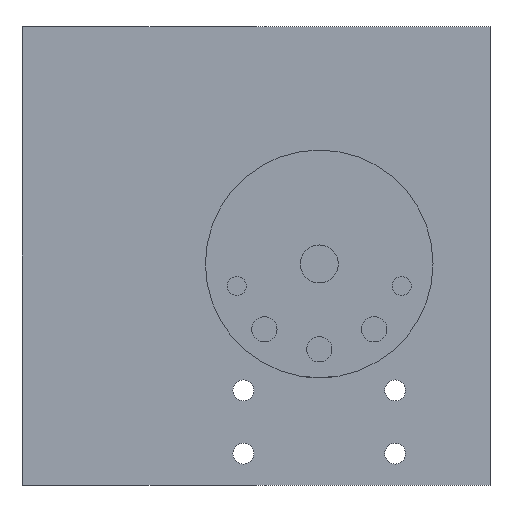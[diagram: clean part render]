
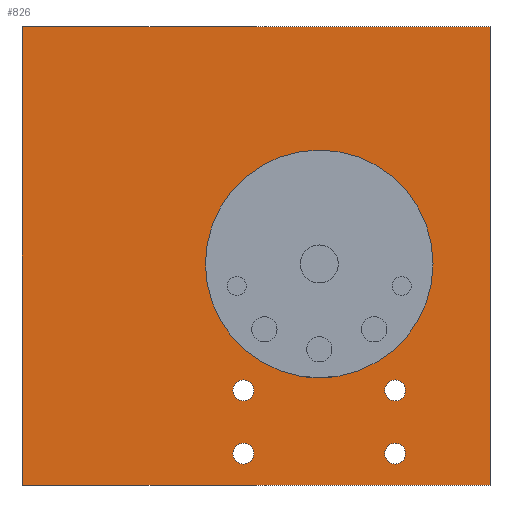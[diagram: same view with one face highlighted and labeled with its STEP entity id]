
A CAD part, front view. The second image highlights one B-rep face of the part: STEP entity #826.
In plain terms, the highlighted planar face has unit normal (0, -1, 0).
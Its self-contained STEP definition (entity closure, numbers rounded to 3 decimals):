
#44 = PLANE('',#45);
#45 = AXIS2_PLACEMENT_3D('',#46,#47,#48);
#46 = CARTESIAN_POINT('',(-47.,19.8,37.5));
#47 = DIRECTION('',(1.,0.,0.));
#48 = DIRECTION('',(0.,0.,-1.));
#100 = PLANE('',#101);
#101 = AXIS2_PLACEMENT_3D('',#102,#103,#104);
#102 = CARTESIAN_POINT('',(27.,19.8,-35.));
#103 = DIRECTION('',(-1.,0.,0.));
#104 = DIRECTION('',(0.,0.,1.));
#165 = VERTEX_POINT('',#166);
#166 = CARTESIAN_POINT('',(-47.,-19.8,37.5));
#180 = PLANE('',#181);
#181 = AXIS2_PLACEMENT_3D('',#182,#183,#184);
#182 = CARTESIAN_POINT('',(27.,19.8,37.5));
#183 = DIRECTION('',(-0.,-0.,-1.));
#184 = DIRECTION('',(-1.,0.,0.));
#192 = EDGE_CURVE('',#193,#165,#195,.T.);
#193 = VERTEX_POINT('',#194);
#194 = CARTESIAN_POINT('',(-47.,-19.8,-35.));
#195 = SURFACE_CURVE('',#196,(#200,#207),.PCURVE_S1.);
#196 = LINE('',#197,#198);
#197 = CARTESIAN_POINT('',(-47.,-19.8,-35.));
#198 = VECTOR('',#199,1.);
#199 = DIRECTION('',(0.,0.,1.));
#200 = PCURVE('',#44,#201);
#201 = DEFINITIONAL_REPRESENTATION('',(#202),#206);
#202 = LINE('',#203,#204);
#203 = CARTESIAN_POINT('',(72.5,-39.6));
#204 = VECTOR('',#205,1.);
#205 = DIRECTION('',(-1.,0.));
#206 = ( GEOMETRIC_REPRESENTATION_CONTEXT(2) 
PARAMETRIC_REPRESENTATION_CONTEXT() REPRESENTATION_CONTEXT('2D SPACE',''
  ) );
#207 = PCURVE('',#208,#213);
#208 = PLANE('',#209);
#209 = AXIS2_PLACEMENT_3D('',#210,#211,#212);
#210 = CARTESIAN_POINT('',(-10.,-19.8,1.25));
#211 = DIRECTION('',(-0.,-1.,-0.));
#212 = DIRECTION('',(0.,0.,-1.));
#213 = DEFINITIONAL_REPRESENTATION('',(#214),#218);
#214 = LINE('',#215,#216);
#215 = CARTESIAN_POINT('',(36.25,-37.));
#216 = VECTOR('',#217,1.);
#217 = DIRECTION('',(-1.,0.));
#218 = ( GEOMETRIC_REPRESENTATION_CONTEXT(2) 
PARAMETRIC_REPRESENTATION_CONTEXT() REPRESENTATION_CONTEXT('2D SPACE',''
  ) );
#236 = PLANE('',#237);
#237 = AXIS2_PLACEMENT_3D('',#238,#239,#240);
#238 = CARTESIAN_POINT('',(-47.,-16.3,-35.));
#239 = DIRECTION('',(-0.,0.,1.));
#240 = DIRECTION('',(1.,0.,0.));
#423 = VERTEX_POINT('',#424);
#424 = CARTESIAN_POINT('',(27.,-19.8,-35.));
#445 = EDGE_CURVE('',#446,#423,#448,.T.);
#446 = VERTEX_POINT('',#447);
#447 = CARTESIAN_POINT('',(27.,-19.8,37.5));
#448 = SURFACE_CURVE('',#449,(#453,#460),.PCURVE_S1.);
#449 = LINE('',#450,#451);
#450 = CARTESIAN_POINT('',(27.,-19.8,37.5));
#451 = VECTOR('',#452,1.);
#452 = DIRECTION('',(0.,0.,-1.));
#453 = PCURVE('',#100,#454);
#454 = DEFINITIONAL_REPRESENTATION('',(#455),#459);
#455 = LINE('',#456,#457);
#456 = CARTESIAN_POINT('',(72.5,-39.6));
#457 = VECTOR('',#458,1.);
#458 = DIRECTION('',(-1.,0.));
#459 = ( GEOMETRIC_REPRESENTATION_CONTEXT(2) 
PARAMETRIC_REPRESENTATION_CONTEXT() REPRESENTATION_CONTEXT('2D SPACE',''
  ) );
#460 = PCURVE('',#208,#461);
#461 = DEFINITIONAL_REPRESENTATION('',(#462),#466);
#462 = LINE('',#463,#464);
#463 = CARTESIAN_POINT('',(-36.25,37.));
#464 = VECTOR('',#465,1.);
#465 = DIRECTION('',(1.,0.));
#466 = ( GEOMETRIC_REPRESENTATION_CONTEXT(2) 
PARAMETRIC_REPRESENTATION_CONTEXT() REPRESENTATION_CONTEXT('2D SPACE',''
  ) );
#804 = EDGE_CURVE('',#446,#165,#805,.T.);
#805 = SURFACE_CURVE('',#806,(#810,#817),.PCURVE_S1.);
#806 = LINE('',#807,#808);
#807 = CARTESIAN_POINT('',(27.,-19.8,37.5));
#808 = VECTOR('',#809,1.);
#809 = DIRECTION('',(-1.,0.,0.));
#810 = PCURVE('',#180,#811);
#811 = DEFINITIONAL_REPRESENTATION('',(#812),#816);
#812 = LINE('',#813,#814);
#813 = CARTESIAN_POINT('',(0.,-39.6));
#814 = VECTOR('',#815,1.);
#815 = DIRECTION('',(1.,0.));
#816 = ( GEOMETRIC_REPRESENTATION_CONTEXT(2) 
PARAMETRIC_REPRESENTATION_CONTEXT() REPRESENTATION_CONTEXT('2D SPACE',''
  ) );
#817 = PCURVE('',#208,#818);
#818 = DEFINITIONAL_REPRESENTATION('',(#819),#823);
#819 = LINE('',#820,#821);
#820 = CARTESIAN_POINT('',(-36.25,37.));
#821 = VECTOR('',#822,1.);
#822 = DIRECTION('',(0.,-1.));
#823 = ( GEOMETRIC_REPRESENTATION_CONTEXT(2) 
PARAMETRIC_REPRESENTATION_CONTEXT() REPRESENTATION_CONTEXT('2D SPACE',''
  ) );
#826 = ADVANCED_FACE('',(#827,#853,#884,#915,#946,#977),#208,.T.);
#827 = FACE_BOUND('',#828,.T.);
#828 = EDGE_LOOP('',(#829,#830,#851,#852));
#829 = ORIENTED_EDGE('',*,*,#192,.F.);
#830 = ORIENTED_EDGE('',*,*,#831,.T.);
#831 = EDGE_CURVE('',#193,#423,#832,.T.);
#832 = SURFACE_CURVE('',#833,(#837,#844),.PCURVE_S1.);
#833 = LINE('',#834,#835);
#834 = CARTESIAN_POINT('',(-47.,-19.8,-35.));
#835 = VECTOR('',#836,1.);
#836 = DIRECTION('',(1.,0.,0.));
#837 = PCURVE('',#208,#838);
#838 = DEFINITIONAL_REPRESENTATION('',(#839),#843);
#839 = LINE('',#840,#841);
#840 = CARTESIAN_POINT('',(36.25,-37.));
#841 = VECTOR('',#842,1.);
#842 = DIRECTION('',(0.,1.));
#843 = ( GEOMETRIC_REPRESENTATION_CONTEXT(2) 
PARAMETRIC_REPRESENTATION_CONTEXT() REPRESENTATION_CONTEXT('2D SPACE',''
  ) );
#844 = PCURVE('',#236,#845);
#845 = DEFINITIONAL_REPRESENTATION('',(#846),#850);
#846 = LINE('',#847,#848);
#847 = CARTESIAN_POINT('',(0.,-3.5));
#848 = VECTOR('',#849,1.);
#849 = DIRECTION('',(1.,0.));
#850 = ( GEOMETRIC_REPRESENTATION_CONTEXT(2) 
PARAMETRIC_REPRESENTATION_CONTEXT() REPRESENTATION_CONTEXT('2D SPACE',''
  ) );
#851 = ORIENTED_EDGE('',*,*,#445,.F.);
#852 = ORIENTED_EDGE('',*,*,#804,.T.);
#853 = FACE_BOUND('',#854,.T.);
#854 = EDGE_LOOP('',(#855));
#855 = ORIENTED_EDGE('',*,*,#856,.F.);
#856 = EDGE_CURVE('',#857,#857,#859,.T.);
#857 = VERTEX_POINT('',#858);
#858 = CARTESIAN_POINT('',(-10.35,-19.8,-20.));
#859 = SURFACE_CURVE('',#860,(#865,#872),.PCURVE_S1.);
#860 = CIRCLE('',#861,1.65);
#861 = AXIS2_PLACEMENT_3D('',#862,#863,#864);
#862 = CARTESIAN_POINT('',(-12.,-19.8,-20.));
#863 = DIRECTION('',(0.,-1.,-0.));
#864 = DIRECTION('',(1.,0.,0.));
#865 = PCURVE('',#208,#866);
#866 = DEFINITIONAL_REPRESENTATION('',(#867),#871);
#867 = CIRCLE('',#868,1.65);
#868 = AXIS2_PLACEMENT_2D('',#869,#870);
#869 = CARTESIAN_POINT('',(21.25,-2.));
#870 = DIRECTION('',(0.,1.));
#871 = ( GEOMETRIC_REPRESENTATION_CONTEXT(2) 
PARAMETRIC_REPRESENTATION_CONTEXT() REPRESENTATION_CONTEXT('2D SPACE',''
  ) );
#872 = PCURVE('',#873,#878);
#873 = CYLINDRICAL_SURFACE('',#874,1.65);
#874 = AXIS2_PLACEMENT_3D('',#875,#876,#877);
#875 = CARTESIAN_POINT('',(-12.,-24.,-20.));
#876 = DIRECTION('',(0.,-1.,-0.));
#877 = DIRECTION('',(1.,0.,0.));
#878 = DEFINITIONAL_REPRESENTATION('',(#879),#883);
#879 = LINE('',#880,#881);
#880 = CARTESIAN_POINT('',(-6.283,-4.2));
#881 = VECTOR('',#882,1.);
#882 = DIRECTION('',(1.,-0.));
#883 = ( GEOMETRIC_REPRESENTATION_CONTEXT(2) 
PARAMETRIC_REPRESENTATION_CONTEXT() REPRESENTATION_CONTEXT('2D SPACE',''
  ) );
#884 = FACE_BOUND('',#885,.T.);
#885 = EDGE_LOOP('',(#886));
#886 = ORIENTED_EDGE('',*,*,#887,.F.);
#887 = EDGE_CURVE('',#888,#888,#890,.T.);
#888 = VERTEX_POINT('',#889);
#889 = CARTESIAN_POINT('',(-10.35,-19.8,-30.));
#890 = SURFACE_CURVE('',#891,(#896,#903),.PCURVE_S1.);
#891 = CIRCLE('',#892,1.65);
#892 = AXIS2_PLACEMENT_3D('',#893,#894,#895);
#893 = CARTESIAN_POINT('',(-12.,-19.8,-30.));
#894 = DIRECTION('',(0.,-1.,-0.));
#895 = DIRECTION('',(1.,0.,0.));
#896 = PCURVE('',#208,#897);
#897 = DEFINITIONAL_REPRESENTATION('',(#898),#902);
#898 = CIRCLE('',#899,1.65);
#899 = AXIS2_PLACEMENT_2D('',#900,#901);
#900 = CARTESIAN_POINT('',(31.25,-2.));
#901 = DIRECTION('',(0.,1.));
#902 = ( GEOMETRIC_REPRESENTATION_CONTEXT(2) 
PARAMETRIC_REPRESENTATION_CONTEXT() REPRESENTATION_CONTEXT('2D SPACE',''
  ) );
#903 = PCURVE('',#904,#909);
#904 = CYLINDRICAL_SURFACE('',#905,1.65);
#905 = AXIS2_PLACEMENT_3D('',#906,#907,#908);
#906 = CARTESIAN_POINT('',(-12.,-24.,-30.));
#907 = DIRECTION('',(0.,-1.,-0.));
#908 = DIRECTION('',(1.,0.,0.));
#909 = DEFINITIONAL_REPRESENTATION('',(#910),#914);
#910 = LINE('',#911,#912);
#911 = CARTESIAN_POINT('',(-6.283,-4.2));
#912 = VECTOR('',#913,1.);
#913 = DIRECTION('',(1.,-0.));
#914 = ( GEOMETRIC_REPRESENTATION_CONTEXT(2) 
PARAMETRIC_REPRESENTATION_CONTEXT() REPRESENTATION_CONTEXT('2D SPACE',''
  ) );
#915 = FACE_BOUND('',#916,.T.);
#916 = EDGE_LOOP('',(#917));
#917 = ORIENTED_EDGE('',*,*,#918,.F.);
#918 = EDGE_CURVE('',#919,#919,#921,.T.);
#919 = VERTEX_POINT('',#920);
#920 = CARTESIAN_POINT('',(18.,-19.8,0.));
#921 = SURFACE_CURVE('',#922,(#927,#934),.PCURVE_S1.);
#922 = CIRCLE('',#923,18.);
#923 = AXIS2_PLACEMENT_3D('',#924,#925,#926);
#924 = CARTESIAN_POINT('',(0.,-19.8,0.));
#925 = DIRECTION('',(0.,-1.,-0.));
#926 = DIRECTION('',(1.,0.,0.));
#927 = PCURVE('',#208,#928);
#928 = DEFINITIONAL_REPRESENTATION('',(#929),#933);
#929 = CIRCLE('',#930,18.);
#930 = AXIS2_PLACEMENT_2D('',#931,#932);
#931 = CARTESIAN_POINT('',(1.25,10.));
#932 = DIRECTION('',(0.,1.));
#933 = ( GEOMETRIC_REPRESENTATION_CONTEXT(2) 
PARAMETRIC_REPRESENTATION_CONTEXT() REPRESENTATION_CONTEXT('2D SPACE',''
  ) );
#934 = PCURVE('',#935,#940);
#935 = CYLINDRICAL_SURFACE('',#936,18.);
#936 = AXIS2_PLACEMENT_3D('',#937,#938,#939);
#937 = CARTESIAN_POINT('',(0.,-60.,0.));
#938 = DIRECTION('',(0.,-1.,-0.));
#939 = DIRECTION('',(1.,0.,0.));
#940 = DEFINITIONAL_REPRESENTATION('',(#941),#945);
#941 = LINE('',#942,#943);
#942 = CARTESIAN_POINT('',(-6.283,-40.2));
#943 = VECTOR('',#944,1.);
#944 = DIRECTION('',(1.,-0.));
#945 = ( GEOMETRIC_REPRESENTATION_CONTEXT(2) 
PARAMETRIC_REPRESENTATION_CONTEXT() REPRESENTATION_CONTEXT('2D SPACE',''
  ) );
#946 = FACE_BOUND('',#947,.T.);
#947 = EDGE_LOOP('',(#948));
#948 = ORIENTED_EDGE('',*,*,#949,.F.);
#949 = EDGE_CURVE('',#950,#950,#952,.T.);
#950 = VERTEX_POINT('',#951);
#951 = CARTESIAN_POINT('',(13.65,-19.8,-20.));
#952 = SURFACE_CURVE('',#953,(#958,#965),.PCURVE_S1.);
#953 = CIRCLE('',#954,1.65);
#954 = AXIS2_PLACEMENT_3D('',#955,#956,#957);
#955 = CARTESIAN_POINT('',(12.,-19.8,-20.));
#956 = DIRECTION('',(0.,-1.,-0.));
#957 = DIRECTION('',(1.,0.,0.));
#958 = PCURVE('',#208,#959);
#959 = DEFINITIONAL_REPRESENTATION('',(#960),#964);
#960 = CIRCLE('',#961,1.65);
#961 = AXIS2_PLACEMENT_2D('',#962,#963);
#962 = CARTESIAN_POINT('',(21.25,22.));
#963 = DIRECTION('',(0.,1.));
#964 = ( GEOMETRIC_REPRESENTATION_CONTEXT(2) 
PARAMETRIC_REPRESENTATION_CONTEXT() REPRESENTATION_CONTEXT('2D SPACE',''
  ) );
#965 = PCURVE('',#966,#971);
#966 = CYLINDRICAL_SURFACE('',#967,1.65);
#967 = AXIS2_PLACEMENT_3D('',#968,#969,#970);
#968 = CARTESIAN_POINT('',(12.,-24.,-20.));
#969 = DIRECTION('',(0.,-1.,-0.));
#970 = DIRECTION('',(1.,0.,0.));
#971 = DEFINITIONAL_REPRESENTATION('',(#972),#976);
#972 = LINE('',#973,#974);
#973 = CARTESIAN_POINT('',(-6.283,-4.2));
#974 = VECTOR('',#975,1.);
#975 = DIRECTION('',(1.,-0.));
#976 = ( GEOMETRIC_REPRESENTATION_CONTEXT(2) 
PARAMETRIC_REPRESENTATION_CONTEXT() REPRESENTATION_CONTEXT('2D SPACE',''
  ) );
#977 = FACE_BOUND('',#978,.T.);
#978 = EDGE_LOOP('',(#979));
#979 = ORIENTED_EDGE('',*,*,#980,.F.);
#980 = EDGE_CURVE('',#981,#981,#983,.T.);
#981 = VERTEX_POINT('',#982);
#982 = CARTESIAN_POINT('',(13.65,-19.8,-30.));
#983 = SURFACE_CURVE('',#984,(#989,#996),.PCURVE_S1.);
#984 = CIRCLE('',#985,1.65);
#985 = AXIS2_PLACEMENT_3D('',#986,#987,#988);
#986 = CARTESIAN_POINT('',(12.,-19.8,-30.));
#987 = DIRECTION('',(0.,-1.,-0.));
#988 = DIRECTION('',(1.,0.,0.));
#989 = PCURVE('',#208,#990);
#990 = DEFINITIONAL_REPRESENTATION('',(#991),#995);
#991 = CIRCLE('',#992,1.65);
#992 = AXIS2_PLACEMENT_2D('',#993,#994);
#993 = CARTESIAN_POINT('',(31.25,22.));
#994 = DIRECTION('',(0.,1.));
#995 = ( GEOMETRIC_REPRESENTATION_CONTEXT(2) 
PARAMETRIC_REPRESENTATION_CONTEXT() REPRESENTATION_CONTEXT('2D SPACE',''
  ) );
#996 = PCURVE('',#997,#1002);
#997 = CYLINDRICAL_SURFACE('',#998,1.65);
#998 = AXIS2_PLACEMENT_3D('',#999,#1000,#1001);
#999 = CARTESIAN_POINT('',(12.,-24.,-30.));
#1000 = DIRECTION('',(0.,-1.,-0.));
#1001 = DIRECTION('',(1.,0.,0.));
#1002 = DEFINITIONAL_REPRESENTATION('',(#1003),#1007);
#1003 = LINE('',#1004,#1005);
#1004 = CARTESIAN_POINT('',(-6.283,-4.2));
#1005 = VECTOR('',#1006,1.);
#1006 = DIRECTION('',(1.,-0.));
#1007 = ( GEOMETRIC_REPRESENTATION_CONTEXT(2) 
PARAMETRIC_REPRESENTATION_CONTEXT() REPRESENTATION_CONTEXT('2D SPACE',''
  ) );
